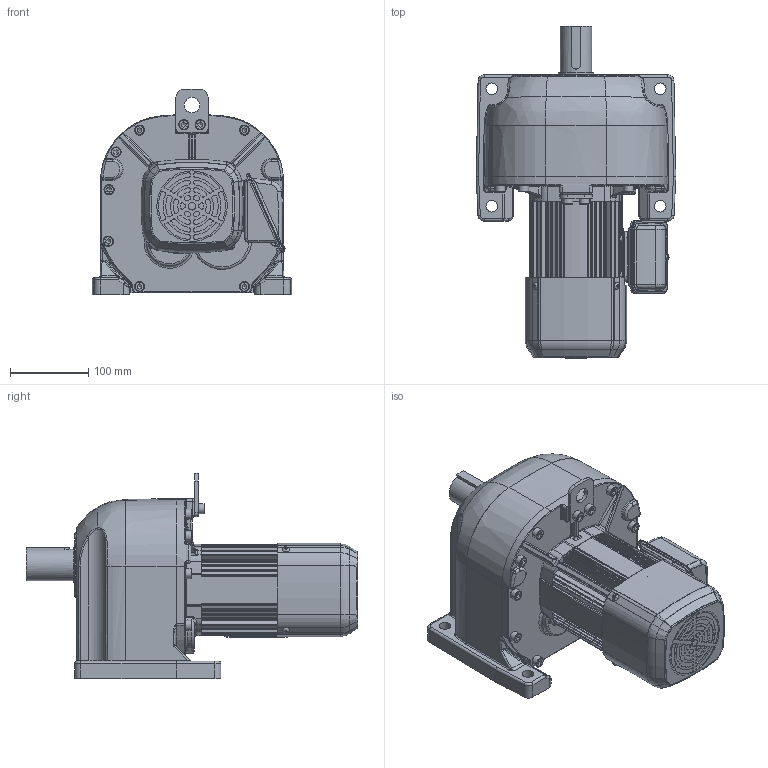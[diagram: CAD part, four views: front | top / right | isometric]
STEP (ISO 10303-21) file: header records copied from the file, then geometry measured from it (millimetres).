
FILE_DESCRIPTION( ( 'Unknown' ), '1' );
FILE_NAME( 'W:/gm/3D-WEB/GM-D/完成品/パーツ/完成品/完成品(GM-D_脚取付_0.4kW_ﾌﾞﾚｰｷ付き_J).stp', 'Unknown', ( 'Unknown' ), ( 'Unknown' ), 'PSStep 11.0', 'Unknown', ' ' );
FILE_SCHEMA( ( 'AUTOMOTIVE_DESIGN { 1 0 10303 214 1 1 1 1 }' ) );
Length unit declared in the file: millimetre
Products named in the file (3): P164379_牒埳偷(J40)
Bounding box: 255 x 424 x 262 mm (x, y, z)
Volume: 7902907.1 mm3; surface area: 682547.7 mm2
Topology: 3 solids, 43 shells, 2096 faces, 5232 edges, 3279 vertices
Faces by surface type: cylinder 851, plane 795, torus 181, bspline 164, cone 90, sphere 15
Full cylindrical faces by diameter (mm): 3.3 x4, 3.8 x6, 4 x4, 4.134 x12, 4.5 x8, 4.6 x4, 4.8 x1, 5.6 x1, 5.8 x4, 6 x4, 6.8 x13, 7 x5, 8 x11, 8.2 x1, 9 x10, 9.3 x4, 10 x13, 13 x11, 13.5 x2, 15 x5, 16 x1, 20 x1, 25 x1, 28.6 x1, 40 x1, 45 x1, 45.1 x1, 45.5 x1, 50 x2, 58 x1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
Entity records: 96403 total; most frequent: CARTESIAN_POINT 31379, DIRECTION 10376, ORIENTED_EDGE 9648, EDGE_CURVE 4824, AXIS2_PLACEMENT_3D 4122, VERTEX_POINT 3168, EDGE_LOOP 2480, FACE_OUTER_BOUND 2269
